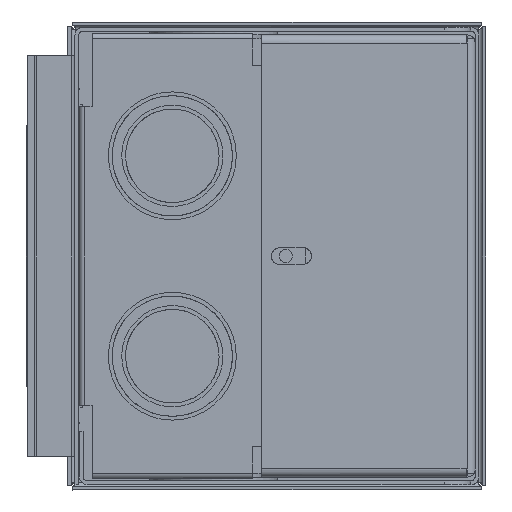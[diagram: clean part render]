
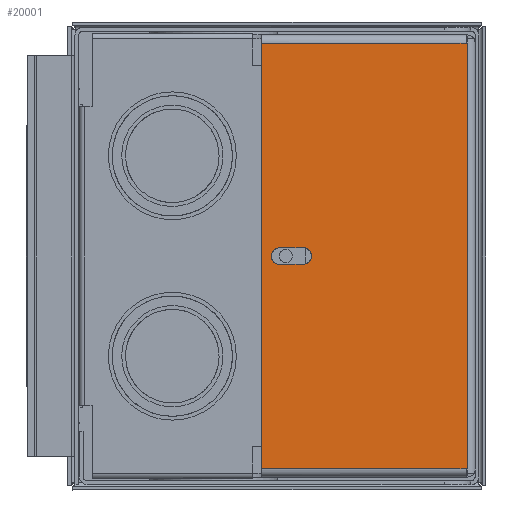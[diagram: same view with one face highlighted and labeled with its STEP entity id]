
A CAD part, front view. The second image highlights one B-rep face of the part: STEP entity #20001.
In plain terms, the highlighted planar face has unit normal (0, -1, 0).
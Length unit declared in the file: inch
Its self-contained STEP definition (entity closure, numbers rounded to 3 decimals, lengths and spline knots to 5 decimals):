
#278 = CARTESIAN_POINT ( 'NONE',  ( -0.02045, -3.769, -1.94012 ) ) ;
#331 = B_SPLINE_CURVE_WITH_KNOTS ( 'NONE', 3,
 ( #22598, #13670, #398, #16824, #13435, #22366, #5856, #278, #11752, #4021, #8135, #11391, #22481, #7892, #9573, #19112, #15491, #5970 ),
 .UNSPECIFIED., .F., .F.,
 ( 4, 2, 2, 2, 2, 2, 2, 2, 4 ),
 ( 0., 0.125, 0.25, 0.375, 0.5, 0.625, 0.75, 0.875, 1. ),
 .UNSPECIFIED. ) ;
#398 = CARTESIAN_POINT ( 'NONE',  ( -0.07609, -3.769, -1.88447 ) ) ;
#523 = VERTEX_POINT ( 'NONE', #7552 ) ;
#736 = CARTESIAN_POINT ( 'NONE',  ( 0.07813, -3.769, -1.64528 ) ) ;
#1177 = DIRECTION ( 'NONE',  ( 1., 0., 0. ) ) ;
#1212 = PLANE ( 'NONE',  #22543 ) ;
#1455 = CARTESIAN_POINT ( 'NONE',  ( 0.07813, -3.769, -1.63505 ) ) ;
#1576 = CARTESIAN_POINT ( 'NONE',  ( 0.06826, -3.769, -1.60593 ) ) ;
#1878 = EDGE_CURVE ( 'NONE', #7094, #8679, #17340, .T. ) ;
#2040 = ORIENTED_EDGE ( 'NONE', *, *, #23395, .F. ) ;
#2586 = CARTESIAN_POINT ( 'NONE',  ( -0.03935, -3.769, -1.57701 ) ) ;
#2776 = EDGE_CURVE ( 'NONE', #523, #18386, #17722, .T. ) ;
#3026 = CARTESIAN_POINT ( 'NONE',  ( 0.03935, -3.769, -1.57701 ) ) ;
#3355 = VECTOR ( 'NONE', #9494, 39.37008 ) ;
#3933 = CARTESIAN_POINT ( 'NONE',  ( -0.06826, -3.769, -1.60593 ) ) ;
#4021 = CARTESIAN_POINT ( 'NONE',  ( 0.01023, -3.769, -1.94215 ) ) ;
#4376 = VECTOR ( 'NONE', #10093, 39.37008 ) ;
#4426 = CARTESIAN_POINT ( 'NONE',  ( -0.07813, -3.769, -1.07385 ) ) ;
#4523 = EDGE_CURVE ( 'NONE', #8679, #20372, #13227, .T. ) ;
#4677 = VECTOR ( 'NONE', #15056, 39.37008 ) ;
#5090 = CARTESIAN_POINT ( 'NONE',  ( 0.07813, -3.769, -1.64528 ) ) ;
#5856 = CARTESIAN_POINT ( 'NONE',  ( -0.03935, -3.769, -1.93229 ) ) ;
#5904 = VERTEX_POINT ( 'NONE', #14382 ) ;
#5970 = CARTESIAN_POINT ( 'NONE',  ( 0.07813, -3.769, -1.86403 ) ) ;
#5994 = CARTESIAN_POINT ( 'NONE',  ( -0.01023, -3.769, -1.56715 ) ) ;
#6343 = DIRECTION ( 'NONE',  ( -1., 0., 0. ) ) ;
#6507 = VERTEX_POINT ( 'NONE', #14927 ) ;
#6900 = CARTESIAN_POINT ( 'NONE',  ( 0.07609, -3.769, -1.62483 ) ) ;
#7094 = VERTEX_POINT ( 'NONE', #13001 ) ;
#7104 = CARTESIAN_POINT ( 'NONE',  ( 2.1138, -3.769, -0.1118 ) ) ;
#7286 = ORIENTED_EDGE ( 'NONE', *, *, #21663, .F. ) ;
#7552 = CARTESIAN_POINT ( 'NONE',  ( -1.9925, -3.769, -0.1118 ) ) ;
#7892 = CARTESIAN_POINT ( 'NONE',  ( 0.06247, -3.769, -1.91204 ) ) ;
#8135 = CARTESIAN_POINT ( 'NONE',  ( 0.02045, -3.769, -1.94012 ) ) ;
#8491 = ORIENTED_EDGE ( 'NONE', *, *, #4523, .F. ) ;
#8589 = CARTESIAN_POINT ( 'NONE',  ( 0., -3.769, -1.07385 ) ) ;
#8679 = VERTEX_POINT ( 'NONE', #736 ) ;
#9073 = B_SPLINE_CURVE_WITH_KNOTS ( 'NONE', 3,
 ( #13579, #5994, #19135, #2586, #9598, #9953, #3933, #17330, #18662, #13229 ),
 .UNSPECIFIED., .F., .F.,
 ( 4, 2, 2, 2, 4 ),
 ( 0.5, 0.625, 0.75, 0.875, 1. ),
 .UNSPECIFIED. ) ;
#9494 = DIRECTION ( 'NONE',  ( 0., 0., 1. ) ) ;
#9505 = EDGE_LOOP ( 'NONE', ( #8491, #11493, #7286, #19628, #13739 ) ) ;
#9573 = CARTESIAN_POINT ( 'NONE',  ( 0.06826, -3.769, -1.90337 ) ) ;
#9598 = CARTESIAN_POINT ( 'NONE',  ( -0.04801, -3.769, -1.5828 ) ) ;
#9953 = CARTESIAN_POINT ( 'NONE',  ( -0.06247, -3.769, -1.59726 ) ) ;
#10093 = DIRECTION ( 'NONE',  ( 0., 0., -1. ) ) ;
#10107 = VERTEX_POINT ( 'NONE', #17465 ) ;
#10208 = LINE ( 'NONE', #4426, #4376 ) ;
#10392 = CARTESIAN_POINT ( 'NONE',  ( 0., -3.769, -1.56715 ) ) ;
#10636 = CARTESIAN_POINT ( 'NONE',  ( 0.02045, -3.769, -1.56918 ) ) ;
#10830 = ORIENTED_EDGE ( 'NONE', *, *, #2776, .F. ) ;
#11391 = CARTESIAN_POINT ( 'NONE',  ( 0.03935, -3.769, -1.93229 ) ) ;
#11493 = ORIENTED_EDGE ( 'NONE', *, *, #1878, .F. ) ;
#11752 = CARTESIAN_POINT ( 'NONE',  ( -0.01023, -3.769, -1.94215 ) ) ;
#12890 = CARTESIAN_POINT ( 'NONE',  ( 1.9925, -3.769, -1.07385 ) ) ;
#13001 = CARTESIAN_POINT ( 'NONE',  ( 0.07813, -3.769, -1.86403 ) ) ;
#13227 = B_SPLINE_CURVE_WITH_KNOTS ( 'NONE', 3,
 ( #5090, #1455, #6900, #1576, #14017, #14493, #3026, #10636, #19924, #10392 ),
 .UNSPECIFIED., .F., .F.,
 ( 4, 2, 2, 2, 4 ),
 ( 0., 0.125, 0.25, 0.375, 0.5 ),
 .UNSPECIFIED. ) ;
#13229 = CARTESIAN_POINT ( 'NONE',  ( -0.07813, -3.769, -1.64528 ) ) ;
#13435 = CARTESIAN_POINT ( 'NONE',  ( -0.06247, -3.769, -1.91204 ) ) ;
#13459 = CARTESIAN_POINT ( 'NONE',  ( 0., -3.769, -2.0359 ) ) ;
#13579 = CARTESIAN_POINT ( 'NONE',  ( 0., -3.769, -1.56715 ) ) ;
#13670 = CARTESIAN_POINT ( 'NONE',  ( -0.07813, -3.769, -1.87425 ) ) ;
#13739 = ORIENTED_EDGE ( 'NONE', *, *, #18863, .F. ) ;
#13801 = DIRECTION ( 'NONE',  ( 0., 0., 1. ) ) ;
#14014 = FACE_BOUND ( 'NONE', #9505, .T. ) ;
#14017 = CARTESIAN_POINT ( 'NONE',  ( 0.06247, -3.769, -1.59726 ) ) ;
#14133 = DIRECTION ( 'NONE',  ( 0., 1., 0. ) ) ;
#14382 = CARTESIAN_POINT ( 'NONE',  ( -0.07813, -3.769, -1.86403 ) ) ;
#14493 = CARTESIAN_POINT ( 'NONE',  ( 0.04801, -3.769, -1.5828 ) ) ;
#14557 = VECTOR ( 'NONE', #1177, 39.37008 ) ;
#14804 = EDGE_CURVE ( 'NONE', #18386, #10107, #20716, .T. ) ;
#14927 = CARTESIAN_POINT ( 'NONE',  ( -1.9925, -3.769, -2.0359 ) ) ;
#15056 = DIRECTION ( 'NONE',  ( 0., 0., -1. ) ) ;
#15491 = CARTESIAN_POINT ( 'NONE',  ( 0.07813, -3.769, -1.87425 ) ) ;
#15618 = LINE ( 'NONE', #17788, #21559 ) ;
#16020 = EDGE_LOOP ( 'NONE', ( #21124, #23145, #10830, #2040 ) ) ;
#16783 = CARTESIAN_POINT ( 'NONE',  ( -0.07813, -3.769, -1.64528 ) ) ;
#16824 = CARTESIAN_POINT ( 'NONE',  ( -0.06826, -3.769, -1.90337 ) ) ;
#16879 = CARTESIAN_POINT ( 'NONE',  ( 1.9925, -3.769, -0.1118 ) ) ;
#17129 = EDGE_CURVE ( 'NONE', #22951, #5904, #10208, .T. ) ;
#17330 = CARTESIAN_POINT ( 'NONE',  ( -0.07609, -3.769, -1.62483 ) ) ;
#17340 = LINE ( 'NONE', #19262, #3355 ) ;
#17465 = CARTESIAN_POINT ( 'NONE',  ( 1.9925, -3.769, -2.0359 ) ) ;
#17530 = VECTOR ( 'NONE', #6343, 39.37008 ) ;
#17722 = LINE ( 'NONE', #7104, #14557 ) ;
#17788 = CARTESIAN_POINT ( 'NONE',  ( -1.9925, -3.769, -1.07385 ) ) ;
#18386 = VERTEX_POINT ( 'NONE', #16879 ) ;
#18662 = CARTESIAN_POINT ( 'NONE',  ( -0.07813, -3.769, -1.63505 ) ) ;
#18840 = EDGE_CURVE ( 'NONE', #10107, #6507, #20935, .T. ) ;
#18863 = EDGE_CURVE ( 'NONE', #20372, #22951, #9073, .T. ) ;
#19112 = CARTESIAN_POINT ( 'NONE',  ( 0.07609, -3.769, -1.88447 ) ) ;
#19135 = CARTESIAN_POINT ( 'NONE',  ( -0.02045, -3.769, -1.56918 ) ) ;
#19262 = CARTESIAN_POINT ( 'NONE',  ( 0.07813, -3.769, -1.07385 ) ) ;
#19628 = ORIENTED_EDGE ( 'NONE', *, *, #17129, .F. ) ;
#19924 = CARTESIAN_POINT ( 'NONE',  ( 0.01023, -3.769, -1.56715 ) ) ;
#20001 = ADVANCED_FACE ( 'NONE', ( #14014, #21369 ), #1212, .F. ) ;
#20372 = VERTEX_POINT ( 'NONE', #23716 ) ;
#20716 = LINE ( 'NONE', #12890, #4677 ) ;
#20935 = LINE ( 'NONE', #13459, #17530 ) ;
#21124 = ORIENTED_EDGE ( 'NONE', *, *, #18840, .F. ) ;
#21369 = FACE_OUTER_BOUND ( 'NONE', #16020, .T. ) ;
#21485 = DIRECTION ( 'NONE',  ( 0., 0., 1. ) ) ;
#21559 = VECTOR ( 'NONE', #13801, 39.37008 ) ;
#21663 = EDGE_CURVE ( 'NONE', #5904, #7094, #331, .T. ) ;
#22366 = CARTESIAN_POINT ( 'NONE',  ( -0.04801, -3.769, -1.9265 ) ) ;
#22481 = CARTESIAN_POINT ( 'NONE',  ( 0.04801, -3.769, -1.9265 ) ) ;
#22543 = AXIS2_PLACEMENT_3D ( 'NONE', #8589, #14133, #21485 ) ;
#22598 = CARTESIAN_POINT ( 'NONE',  ( -0.07813, -3.769, -1.86403 ) ) ;
#22951 = VERTEX_POINT ( 'NONE', #16783 ) ;
#23145 = ORIENTED_EDGE ( 'NONE', *, *, #14804, .F. ) ;
#23395 = EDGE_CURVE ( 'NONE', #6507, #523, #15618, .T. ) ;
#23716 = CARTESIAN_POINT ( 'NONE',  ( 0., -3.769, -1.56715 ) ) ;
